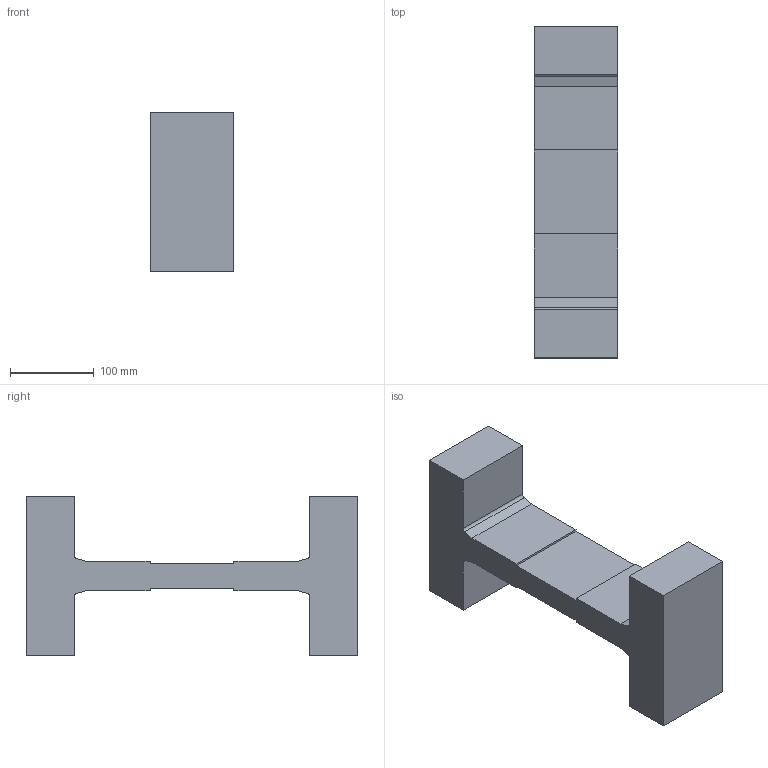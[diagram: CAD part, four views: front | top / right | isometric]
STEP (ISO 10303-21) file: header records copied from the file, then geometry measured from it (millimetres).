
FILE_DESCRIPTION( ( '' ), '1' );
FILE_NAME( '//expscmdclustefs.cadenas.external/client_exchange/iodir/jobs/output/wkb47118830_no0/STEP/ALFATEC_MP_280_0842__100mm__2_03.stp', '2012-07-19T07:51:02', ( '' ), ( '' ), ' ', ' ', ' ' );
FILE_SCHEMA( ( 'CONFIG_CONTROL_DESIGN' ) );
Length unit declared in the file: millimetre
Products named in the file (1): 1
Bounding box: 100 x 395 x 190 mm (x, y, z)
Volume: 3121579.8 mm3; surface area: 209674.5 mm2
Topology: 1 solids, 1 shells, 30 faces, 84 edges, 56 vertices
Faces by surface type: plane 26, cylinder 4
Entity records: 1000 total; most frequent: CARTESIAN_POINT 171, ORIENTED_EDGE 168, DIRECTION 154, EDGE_CURVE 84, LINE 76, VECTOR 76, VERTEX_POINT 56, AXIS2_PLACEMENT_3D 39
